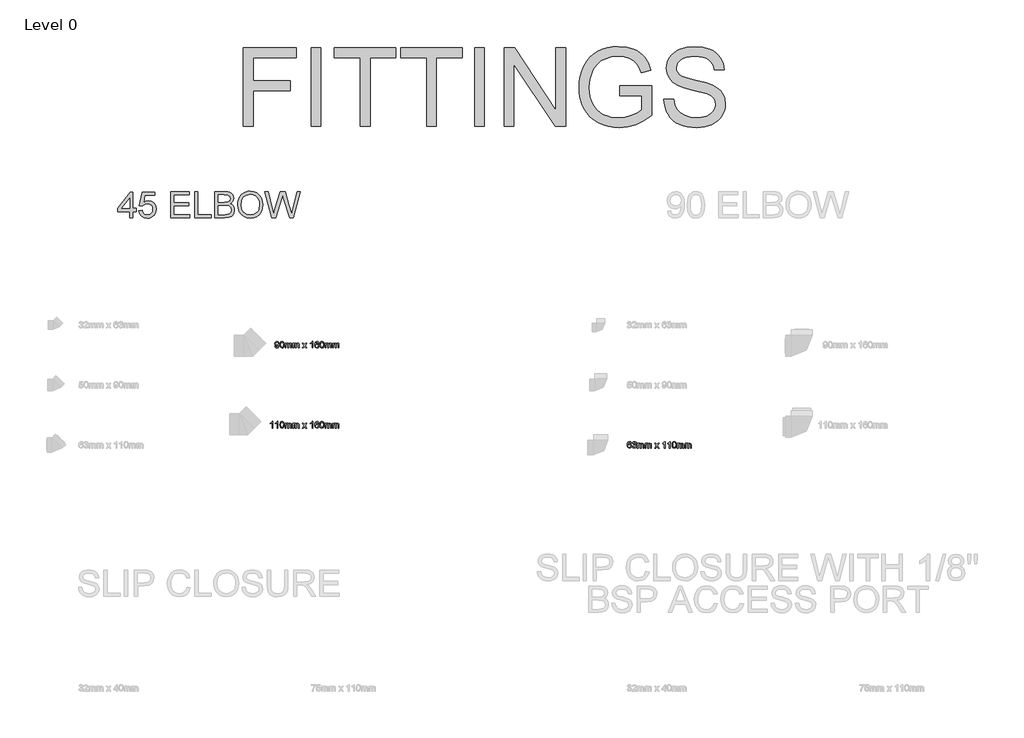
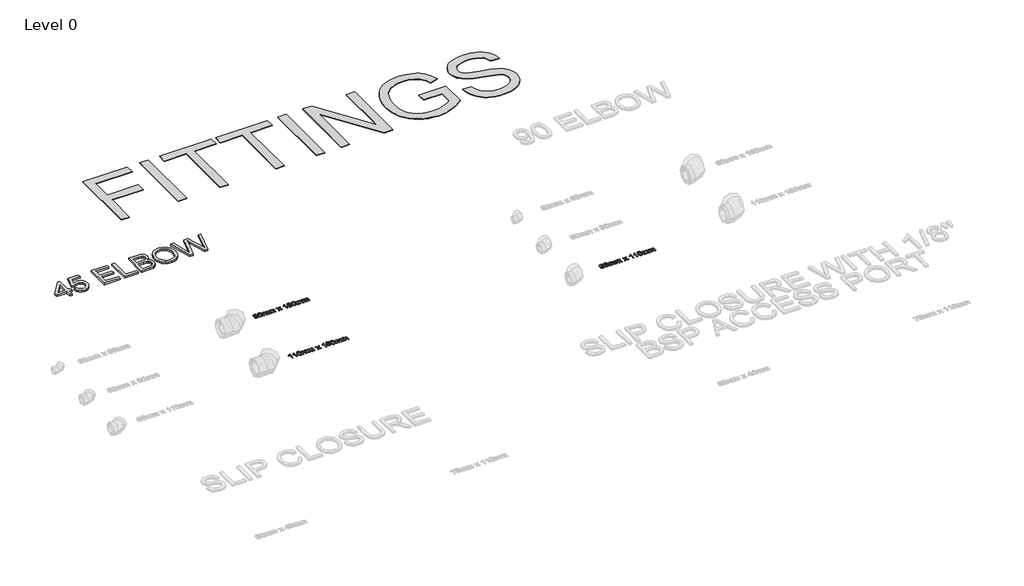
# One storey, part 16 of 21: 5 proxies.
"""IFC4 building model written with IfcOpenShell, lengths in millimetres."""

from ifc_helpers import new_model, si_unit, origin, origin_with_axes, place, context, project, spatial, polyline, outline, extrude, element, save

model = new_model("IFC4")

# Units and contexts
model_context = context("Model", 3, world=origin())
ifc_project = project(units=[si_unit("LENGTHUNIT", "METRE", prefix="MILLI")], contexts=[model_context])

# Site, building, storey
site = spatial("IfcSite", under=ifc_project)
building = spatial("IfcBuilding", under=site)
storey = spatial("IfcBuildingStorey", under=building, Name="Level 0", Elevation=0.0)

# Proxies
placement = place(None, origin())
element("IfcBuildingElementProxy", 1, Name="200mm Arial", ObjectType="200mm Arial", at=placement, inside=storey, context=model_context, shape_type="SweptSolid", body=[
    extrude(outline(polyline([(-7050.3842088, -1553.2112631), (-7050.3842088, -1506.1223677), (-7141.4227399, -1506.1223677), (-7141.4227399, -1481.0082902), (-7044.1056894, -1355.4379025), (-7025.2701313, -1355.4379025), (-7025.2701313, -1481.0082902), (-7000.1560537, -1481.0082902), (-7000.1560537, -1506.1223677), (-7025.2701313, -1506.1223677), (-7025.2701313, -1553.2112631), (-7050.3842088, -1553.2112631)]), holes=[polyline([(-7050.3842088, -1481.0082902), (-7050.3842088, -1403.4097147), (-7110.5206523, -1481.0082902), (-7050.3842088, -1481.0082902)])]), origin_with_axes(), (0.0, 0.0, 1.0), 15.0),
    extrude(outline(polyline([(-6978.1812359, -1499.8438483), (-6953.0671583, -1496.7045886), (-6948.4563707, -1511.7816191), (-6940.4120177, -1522.5789556), (-6928.9708877, -1529.0720728), (-6914.1697687, -1531.2364452), (-6896.1680764, -1528.2259443), (-6882.6790699, -1519.1944413), (-6874.2545722, -1505.1842686), (-6871.4464064, -1487.2377586), (-6874.0767626, -1470.3397123), (-6881.9678314, -1457.4147915), (-6895.1809264, -1449.2110231), (-6913.7773613, -1446.4764336), (-6935.8257555, -1450.8419666), (-6949.9278987, -1462.172732), (-6975.0419762, -1459.0334723), (-6953.0671583, -1355.4379025), (-6855.7501079, -1355.4379025), (-6855.7501079, -1380.55198), (-6932.7600722, -1380.55198), (-6943.5022265, -1435.8814321), (-6925.5618478, -1424.992125), (-6906.7630779, -1421.362356), (-6883.298338, -1425.8627791), (-6863.8189863, -1439.3640483), (-6850.7039932, -1459.9409146), (-6846.3323288, -1485.6681288), (-6850.2686662, -1510.7822063), (-6862.0776782, -1532.2665148), (-6872.5132641, -1542.8032683), (-6884.6901582, -1550.3295208), (-6898.6083603, -1554.8452723), (-6914.2678706, -1556.3505228), (-6938.9343584, -1552.4816305), (-6958.5853883, -1540.8749535), (-6972.0560007, -1522.8793926), (-6978.1812359, -1499.8438483)])), origin_with_axes(), (0.0, 0.0, 1.0), 15.0),
    extrude(outline(polyline([(-6736.4582396, -1553.2112631), (-6736.4582396, -1352.2986428), (-6592.0522937, -1352.2986428), (-6592.0522937, -1377.4127203), (-6711.3441621, -1377.4127203), (-6711.3441621, -1437.0586545), (-6598.3308131, -1437.0586545), (-6598.3308131, -1462.172732), (-6711.3441621, -1462.172732), (-6711.3441621, -1528.0971856), (-6588.9130341, -1528.0971856), (-6588.9130341, -1553.2112631), (-6736.4582396, -1553.2112631)])), origin_with_axes(), (0.0, 0.0, 1.0), 15.0),
    extrude(outline(polyline([(-6551.2419178, -1553.2112631), (-6551.2419178, -1352.2986428), (-6526.1278402, -1352.2986428), (-6526.1278402, -1528.0971856), (-6425.6715301, -1528.0971856), (-6425.6715301, -1553.2112631), (-6551.2419178, -1553.2112631)])), origin_with_axes(), (0.0, 0.0, 1.0), 15.0),
    extrude(outline(polyline([(-6397.4181928, -1553.2112631), (-6397.4181928, -1352.2986428), (-6320.751585, -1352.2986428), (-6299.6658153, -1353.7763021), (-6283.2030961, -1358.2092802), (-6270.5847436, -1365.7079415), (-6261.0320745, -1376.3826507), (-6255.0172039, -1388.9396895), (-6253.012247, -1402.0853395), (-6254.6983728, -1414.1825257), (-6259.7567502, -1425.5562108), (-6268.2241675, -1435.5074187), (-6280.1374128, -1443.3371739), (-6265.9065109, -1450.7683902), (-6255.3912172, -1462.0746302), (-6248.8981, -1476.5078671), (-6246.7337276, -1493.3200743), (-6252.644365, -1520.3226127), (-6267.2860684, -1539.5505783), (-6289.1382589, -1549.7531723), (-6321.3401962, -1553.2112631), (-6397.4181928, -1553.2112631)]), holes=[polyline([(-6372.3041153, -1528.0971856), (-6320.800636, -1528.0971856), (-6302.1612815, -1527.1161669), (-6286.3914067, -1521.6469879), (-6275.943558, -1510.4879007), (-6271.8478051, -1493.5653289), (-6276.6547966, -1474.0430577), (-6282.95171, -1466.9858548), (-6292.2284677, -1462.3934612), (-6323.2531826, -1459.0334723), (-6372.3041153, -1459.0334723), (-6372.3041153, -1528.0971856)]), polyline([(-6372.3041153, -1433.9193948), (-6326.4414932, -1433.9193948), (-6299.659684, -1431.7611537), (-6283.5464526, -1422.466002), (-6278.1263245, -1406.107516), (-6283.1785706, -1389.7245044), (-6297.6485957, -1380.0369452), (-6329.9241095, -1377.4127203), (-6372.3041153, -1377.4127203), (-6372.3041153, -1433.9193948)])]), origin_with_axes(), (0.0, 0.0, 1.0), 15.0),
    extrude(outline(polyline([(-6221.6196501, -1455.4037033), (-6219.945787, -1431.8377958), (-6214.9241978, -1410.975821), (-6206.5548824, -1392.8177789), (-6194.8378408, -1377.3636694), (-6180.4751146, -1365.0242941), (-6164.1687452, -1356.2104547), (-6145.9187325, -1350.922151), (-6125.7250767, -1349.1593831), (-6099.3724631, -1352.4703211), (-6075.7421763, -1362.4031349), (-6056.1218032, -1378.2588489), (-6041.7989308, -1399.3384872), (-6033.0433393, -1424.624243), (-6030.1248088, -1453.0983095), (-6033.1966235, -1481.9525206), (-6042.4120675, -1507.5938957), (-6057.2622374, -1528.7103222), (-6077.2382297, -1543.9896877), (-6100.6661814, -1553.260314), (-6125.8722295, -1556.3505228), (-6152.6295132, -1552.9353516), (-6176.3946901, -1542.689838), (-6195.9660123, -1526.5398184), (-6210.1417318, -1505.4111292), (-6218.7501705, -1481.1002607), (-6221.6196501, -1455.4037033)]), holes=[polyline([(-6196.5055725, -1455.648958), (-6191.4839833, -1487.0783431), (-6176.4192156, -1511.027461), (-6153.7760788, -1526.1841992), (-6126.0193823, -1531.2364452), (-6097.8580155, -1526.1351482), (-6075.1780905, -1510.8312572), (-6066.4546887, -1499.5587398), (-6060.2236874, -1486.1463754), (-6055.2388864, -1452.9021057), (-6057.372602, -1430.6697705), (-6063.7737487, -1411.4540676), (-6074.2767796, -1395.7393751), (-6088.7161479, -1384.0100708), (-6106.1353604, -1376.7076132), (-6125.5779239, -1374.2734606), (-6152.592725, -1378.9639561), (-6175.5608243, -1393.0354424), (-6184.7241516, -1403.9845303), (-6191.2693855, -1418.0698122), (-6196.5055725, -1455.648958)])]), origin_with_axes(), (0.0, 0.0, 1.0), 15.0),
    extrude(outline(polyline([(-5959.6386186, -1553.2112631), (-6014.4285104, -1352.2986428), (-5988.5296179, -1352.2986428), (-5956.7446135, -1484.3437536), (-5946.934427, -1525.1050787), (-5936.4375274, -1489.0526431), (-5896.6081701, -1352.2986428), (-5859.2804103, -1352.2986428), (-5830.34036, -1451.4305778), (-5808.8070006, -1525.1050787), (-5799.2911196, -1485.520976), (-5767.2118096, -1352.2986428), (-5741.3129172, -1352.2986428), (-5796.1518599, -1553.2112631), (-5822.9827201, -1553.2112631), (-5871.150736, -1398.2103158), (-5877.8707138, -1376.5788545), (-5885.4245574, -1402.6248997), (-5929.3251422, -1553.2112631), (-5959.6386186, -1553.2112631)])), origin_with_axes(), (0.0, 0.0, 1.0), 15.0),
])
element("IfcBuildingElementProxy", 2, Name="50mm", ObjectType="50mm", at=placement, inside=storey, context=model_context, shape_type="SweptSolid", body=[
    extrude(outline(polyline([(-5936.586045, -2537.3786578), (-5930.3075256, -2536.5938429), (-5927.487097, -2542.584188), (-5922.1405453, -2544.4419921), (-5917.0576424, -2543.2463756), (-5913.6118144, -2540.0519336), (-5911.5578066, -2534.5950174), (-5910.6503643, -2527.3109539), (-5915.7087417, -2530.842621), (-5922.5942664, -2532.6697683), (-5933.0850346, -2528.2061334), (-5937.3708599, -2516.4461723), (-5932.8765682, -2504.3060664), (-5921.6132478, -2499.7075415), (-5912.6675839, -2502.3317664), (-5906.5116919, -2509.8120336), (-5904.4086331, -2523.8651258), (-5906.5055605, -2539.1138345), (-5912.7411603, -2547.7529301), (-5922.4348509, -2550.7205115), (-5932.0856219, -2547.2195012), (-5936.586045, -2537.3786578)]), holes=[polyline([(-5910.6871525, -2516.2990195), (-5913.3972165, -2508.7697013), (-5920.5954409, -2505.9860609), (-5928.1492845, -2508.9842991), (-5931.0923405, -2516.7527406), (-5928.3087001, -2523.7118417), (-5920.7671192, -2526.3912489), (-5913.5259752, -2523.7118417), (-5910.6871525, -2516.2990195)])]), origin_with_axes(), (0.0, 0.0, 1.0), 5.0),
    extrude(outline(polyline([(-5898.9149287, -2525.2262892), (-5897.0693873, -2510.7746582), (-5891.5879456, -2502.442131), (-5882.4338153, -2499.7075415), (-5875.1007008, -2501.3262223), (-5870.036192, -2505.9921922), (-5867.0931361, -2513.4234085), (-5865.9527019, -2525.2262892), (-5867.7798491, -2539.6166066), (-5873.2428968, -2547.9675279), (-5882.4338153, -2550.7205115), (-5893.9117335, -2545.9380455), (-5897.6641299, -2537.4430371), (-5898.9149287, -2525.2262892)]), holes=[polyline([(-5892.6364093, -2525.2140265), (-5889.6933533, -2540.8060917), (-5882.4338153, -2544.4419921), (-5875.1742772, -2540.793829), (-5872.2312213, -2525.2140265), (-5875.0761754, -2509.7997709), (-5882.5073917, -2505.9860609), (-5889.5952514, -2509.3460498), (-5892.6364093, -2525.2140265)])]), origin_with_axes(), (0.0, 0.0, 1.0), 5.0),
    extrude(outline(polyline([(-5858.8893676, -2549.9356966), (-5858.8893676, -2513.0493952), (-5852.6108482, -2513.0493952), (-5852.6108482, -2519.1194481), (-5848.2943661, -2514.1469098), (-5842.1507368, -2512.2645803), (-5835.8599547, -2514.183698), (-5832.4018639, -2519.5609065), (-5827.502902, -2514.0886618), (-5821.3163531, -2512.2645803), (-5813.1064533, -2515.2996067), (-5810.2308424, -2524.6499408), (-5810.2308424, -2549.9356966), (-5816.5093617, -2549.9356966), (-5816.5093617, -2527.3477421), (-5817.0918416, -2522.1054236), (-5819.2010317, -2519.5241183), (-5822.7878811, -2518.5430996), (-5828.9621673, -2521.0569599), (-5831.4208453, -2529.1135756), (-5831.4208453, -2549.9356966), (-5837.6993647, -2549.9356966), (-5837.6993647, -2526.6487663), (-5839.1524985, -2520.5664506), (-5843.9165704, -2518.5430996), (-5848.5641463, -2519.8920003), (-5851.654355, -2523.8406004), (-5852.6108482, -2531.3331303), (-5852.6108482, -2549.9356966), (-5858.8893676, -2549.9356966)])), origin_with_axes(), (0.0, 0.0, 1.0), 5.0),
    extrude(outline(polyline([(-5800.8130633, -2549.9356966), (-5800.8130633, -2513.0493952), (-5794.5345439, -2513.0493952), (-5794.5345439, -2519.1194481), (-5790.2180618, -2514.1469098), (-5784.0744325, -2512.2645803), (-5777.7836504, -2514.183698), (-5774.3255596, -2519.5609065), (-5769.4265977, -2514.0886618), (-5763.2400488, -2512.2645803), (-5755.030149, -2515.2996067), (-5752.1545381, -2524.6499408), (-5752.1545381, -2549.9356966), (-5758.4330574, -2549.9356966), (-5758.4330574, -2527.3477421), (-5759.0155373, -2522.1054236), (-5761.1247274, -2519.5241183), (-5764.7115768, -2518.5430996), (-5770.885863, -2521.0569599), (-5773.344541, -2529.1135756), (-5773.344541, -2549.9356966), (-5779.6230604, -2549.9356966), (-5779.6230604, -2526.6487663), (-5781.0761942, -2520.5664506), (-5785.8402661, -2518.5430996), (-5790.4878419, -2519.8920003), (-5793.5780507, -2523.8406004), (-5794.5345439, -2531.3331303), (-5794.5345439, -2549.9356966), (-5800.8130633, -2549.9356966)])), origin_with_axes(), (0.0, 0.0, 1.0), 5.0),
    extrude(outline(polyline([(-5727.0404605, -2549.9356966), (-5713.6250304, -2531.394444), (-5726.2556456, -2513.0493952), (-5718.701802, -2513.0493952), (-5712.6072236, -2521.8785631), (-5709.7622695, -2526.0478923), (-5707.2974601, -2522.6388525), (-5700.3567531, -2513.0493952), (-5692.8029095, -2513.0493952), (-5706.0711868, -2531.394444), (-5693.2934188, -2549.9356966), (-5700.8472625, -2549.9356966), (-5708.5359962, -2538.7888721), (-5709.9462105, -2536.7532584), (-5719.4866169, -2549.9356966), (-5727.0404605, -2549.9356966)])), origin_with_axes(), (0.0, 0.0, 1.0), 5.0),
    extrude(outline(polyline([(-5646.2045234, -2549.9356966), (-5652.4830428, -2549.9356966), (-5652.4830428, -2510.7930523), (-5658.4304684, -2515.0298266), (-5665.0400816, -2518.1997431), (-5665.0400816, -2512.2645803), (-5655.8369003, -2506.3907311), (-5650.2512254, -2499.7075415), (-5646.2045234, -2499.7075415), (-5646.2045234, -2549.9356966)])), origin_with_axes(), (0.0, 0.0, 1.0), 5.0),
    extrude(outline(polyline([(-5599.1156281, -2513.0493952), (-5605.3941474, -2513.8342101), (-5607.7731177, -2508.598023), (-5614.0638998, -2505.9860609), (-5619.7292825, -2507.5066398), (-5624.0151078, -2513.2149421), (-5625.7993354, -2524.4046861), (-5620.2627114, -2519.3953596), (-5613.4017122, -2517.7582847), (-5602.7331343, -2522.2341823), (-5598.3308131, -2533.7979397), (-5600.403215, -2542.4615607), (-5606.105386, -2548.5929273), (-5614.3336799, -2550.7205115), (-5627.129842, -2545.0796542), (-5630.8408516, -2537.6116497), (-5632.0778548, -2526.4893507), (-5630.7044287, -2513.9844286), (-5626.5841504, -2505.4342379), (-5620.9586215, -2501.1392156), (-5613.6714923, -2499.7075415), (-5603.7509412, -2503.2514714), (-5599.1156281, -2513.0493952)]), holes=[polyline([(-5625.7993354, -2533.6998378), (-5624.3462016, -2539.13836), (-5620.4834406, -2543.0869601), (-5614.8241893, -2544.4419921), (-5607.4236298, -2541.6338262), (-5604.6093325, -2534.0064062), (-5607.3868416, -2526.7039486), (-5615.0817066, -2524.0368041), (-5622.6784698, -2526.7039486), (-5625.7993354, -2533.6998378)])]), origin_with_axes(), (0.0, 0.0, 1.0), 5.0),
    extrude(outline(polyline([(-5592.8371087, -2525.2262892), (-5590.9915673, -2510.7746582), (-5585.5101256, -2502.442131), (-5576.3559953, -2499.7075415), (-5569.0228809, -2501.3262223), (-5563.9583721, -2505.9921922), (-5561.0153161, -2513.4234085), (-5559.8748819, -2525.2262892), (-5561.7020291, -2539.6166066), (-5567.1650768, -2547.9675279), (-5576.3559953, -2550.7205115), (-5587.8339135, -2545.9380455), (-5591.5863099, -2537.4430371), (-5592.8371087, -2525.2262892)]), holes=[polyline([(-5586.5585893, -2525.2140265), (-5583.6155333, -2540.8060917), (-5576.3559953, -2544.4419921), (-5569.0964573, -2540.793829), (-5566.1534013, -2525.2140265), (-5568.9983554, -2509.7997709), (-5576.4295717, -2505.9860609), (-5583.5174315, -2509.3460498), (-5586.5585893, -2525.2140265)])]), origin_with_axes(), (0.0, 0.0, 1.0), 5.0),
    extrude(outline(polyline([(-5552.8115476, -2549.9356966), (-5552.8115476, -2513.0493952), (-5546.5330282, -2513.0493952), (-5546.5330282, -2519.1194481), (-5542.2165461, -2514.1469098), (-5536.0729168, -2512.2645803), (-5529.7821347, -2514.183698), (-5526.3240439, -2519.5609065), (-5521.425082, -2514.0886618), (-5515.2385332, -2512.2645803), (-5507.0286333, -2515.2996067), (-5504.1530224, -2524.6499408), (-5504.1530224, -2549.9356966), (-5510.4315418, -2549.9356966), (-5510.4315418, -2527.3477421), (-5511.0140216, -2522.1054236), (-5513.1232117, -2519.5241183), (-5516.7100611, -2518.5430996), (-5522.8843473, -2521.0569599), (-5525.3430253, -2529.1135756), (-5525.3430253, -2549.9356966), (-5531.6215447, -2549.9356966), (-5531.6215447, -2526.6487663), (-5533.0746786, -2520.5664506), (-5537.8387504, -2518.5430996), (-5542.4863263, -2519.8920003), (-5545.576535, -2523.8406004), (-5546.5330282, -2531.3331303), (-5546.5330282, -2549.9356966), (-5552.8115476, -2549.9356966)])), origin_with_axes(), (0.0, 0.0, 1.0), 5.0),
    extrude(outline(polyline([(-5494.7352433, -2549.9356966), (-5494.7352433, -2513.0493952), (-5488.4567239, -2513.0493952), (-5488.4567239, -2519.1194481), (-5484.1402418, -2514.1469098), (-5477.9966125, -2512.2645803), (-5471.7058304, -2514.183698), (-5468.2477396, -2519.5609065), (-5463.3487777, -2514.0886618), (-5457.1622289, -2512.2645803), (-5448.952329, -2515.2996067), (-5446.0767181, -2524.6499408), (-5446.0767181, -2549.9356966), (-5452.3552374, -2549.9356966), (-5452.3552374, -2527.3477421), (-5452.9377173, -2522.1054236), (-5455.0469074, -2519.5241183), (-5458.6337568, -2518.5430996), (-5464.808043, -2521.0569599), (-5467.266721, -2529.1135756), (-5467.266721, -2549.9356966), (-5473.5452404, -2549.9356966), (-5473.5452404, -2526.6487663), (-5474.9983743, -2520.5664506), (-5479.7624461, -2518.5430996), (-5484.410022, -2519.8920003), (-5487.5002307, -2523.8406004), (-5488.4567239, -2531.3331303), (-5488.4567239, -2549.9356966), (-5494.7352433, -2549.9356966)])), origin_with_axes(), (0.0, 0.0, 1.0), 5.0),
])
element("IfcBuildingElementProxy", 3, Name="50mm", ObjectType="50mm", at=placement, inside=storey, context=model_context, shape_type="SweptSolid", body=[
    extrude(outline(polyline([(-5952.2823434, -3163.2690299), (-5958.5608628, -3163.2690299), (-5958.5608628, -3124.1263856), (-5964.5082884, -3128.3631599), (-5971.1179016, -3131.5330764), (-5971.1179016, -3125.5979136), (-5961.9147203, -3119.7240644), (-5956.3290454, -3113.0408748), (-5952.2823434, -3113.0408748), (-5952.2823434, -3163.2690299)])), origin_with_axes(), (0.0, 0.0, 1.0), 5.0),
    extrude(outline(polyline([(-5913.8264122, -3163.2690299), (-5920.1049316, -3163.2690299), (-5920.1049316, -3124.1263856), (-5926.0523572, -3128.3631599), (-5932.6619704, -3131.5330764), (-5932.6619704, -3125.5979136), (-5923.4587891, -3119.7240644), (-5917.8731141, -3113.0408748), (-5913.8264122, -3113.0408748), (-5913.8264122, -3163.2690299)])), origin_with_axes(), (0.0, 0.0, 1.0), 5.0),
    extrude(outline(polyline([(-5898.9149287, -3138.5596226), (-5897.0693873, -3124.1079915), (-5891.5879456, -3115.7754643), (-5882.4338153, -3113.0408748), (-5875.1007008, -3114.6595556), (-5870.036192, -3119.3255256), (-5867.0931361, -3126.7567419), (-5865.9527019, -3138.5596226), (-5867.7798491, -3152.9499399), (-5873.2428968, -3161.3008612), (-5882.4338153, -3164.0538448), (-5893.9117335, -3159.2713789), (-5897.6641299, -3150.7763705), (-5898.9149287, -3138.5596226)]), holes=[polyline([(-5892.6364093, -3138.5473598), (-5889.6933533, -3154.139425), (-5882.4338153, -3157.7753254), (-5875.1742772, -3154.1271623), (-5872.2312213, -3138.5473598), (-5875.0761754, -3123.1331042), (-5882.5073917, -3119.3193942), (-5889.5952514, -3122.6793831), (-5892.6364093, -3138.5473598)])]), origin_with_axes(), (0.0, 0.0, 1.0), 5.0),
    extrude(outline(polyline([(-5858.8893676, -3163.2690299), (-5858.8893676, -3126.3827285), (-5852.6108482, -3126.3827285), (-5852.6108482, -3132.4527814), (-5848.2943661, -3127.4802431), (-5842.1507368, -3125.5979136), (-5835.8599547, -3127.5170313), (-5832.4018639, -3132.8942398), (-5827.502902, -3127.4219952), (-5821.3163531, -3125.5979136), (-5813.1064533, -3128.6329401), (-5810.2308424, -3137.9832741), (-5810.2308424, -3163.2690299), (-5816.5093617, -3163.2690299), (-5816.5093617, -3140.6810754), (-5817.0918416, -3135.438757), (-5819.2010317, -3132.8574516), (-5822.7878811, -3131.876433), (-5828.9621673, -3134.3902933), (-5831.4208453, -3142.446909), (-5831.4208453, -3163.2690299), (-5837.6993647, -3163.2690299), (-5837.6993647, -3139.9820996), (-5839.1524985, -3133.8997839), (-5843.9165704, -3131.876433), (-5848.5641463, -3133.2253336), (-5851.654355, -3137.1739337), (-5852.6108482, -3144.6664637), (-5852.6108482, -3163.2690299), (-5858.8893676, -3163.2690299)])), origin_with_axes(), (0.0, 0.0, 1.0), 5.0),
    extrude(outline(polyline([(-5800.8130633, -3163.2690299), (-5800.8130633, -3126.3827285), (-5794.5345439, -3126.3827285), (-5794.5345439, -3132.4527814), (-5790.2180618, -3127.4802431), (-5784.0744325, -3125.5979136), (-5777.7836504, -3127.5170313), (-5774.3255596, -3132.8942398), (-5769.4265977, -3127.4219952), (-5763.2400488, -3125.5979136), (-5755.030149, -3128.6329401), (-5752.1545381, -3137.9832741), (-5752.1545381, -3163.2690299), (-5758.4330574, -3163.2690299), (-5758.4330574, -3140.6810754), (-5759.0155373, -3135.438757), (-5761.1247274, -3132.8574516), (-5764.7115768, -3131.876433), (-5770.885863, -3134.3902933), (-5773.344541, -3142.446909), (-5773.344541, -3163.2690299), (-5779.6230604, -3163.2690299), (-5779.6230604, -3139.9820996), (-5781.0761942, -3133.8997839), (-5785.8402661, -3131.876433), (-5790.4878419, -3133.2253336), (-5793.5780507, -3137.1739337), (-5794.5345439, -3144.6664637), (-5794.5345439, -3163.2690299), (-5800.8130633, -3163.2690299)])), origin_with_axes(), (0.0, 0.0, 1.0), 5.0),
    extrude(outline(polyline([(-5727.0404605, -3163.2690299), (-5713.6250304, -3144.7277773), (-5726.2556456, -3126.3827285), (-5718.701802, -3126.3827285), (-5712.6072236, -3135.2118964), (-5709.7622695, -3139.3812257), (-5707.2974601, -3135.9721859), (-5700.3567531, -3126.3827285), (-5692.8029095, -3126.3827285), (-5706.0711868, -3144.7277773), (-5693.2934188, -3163.2690299), (-5700.8472625, -3163.2690299), (-5708.5359962, -3152.1222054), (-5709.9462105, -3150.0865917), (-5719.4866169, -3163.2690299), (-5727.0404605, -3163.2690299)])), origin_with_axes(), (0.0, 0.0, 1.0), 5.0),
    extrude(outline(polyline([(-5646.2045234, -3163.2690299), (-5652.4830428, -3163.2690299), (-5652.4830428, -3124.1263856), (-5658.4304684, -3128.3631599), (-5665.0400816, -3131.5330764), (-5665.0400816, -3125.5979136), (-5655.8369003, -3119.7240644), (-5650.2512254, -3113.0408748), (-5646.2045234, -3113.0408748), (-5646.2045234, -3163.2690299)])), origin_with_axes(), (0.0, 0.0, 1.0), 5.0),
    extrude(outline(polyline([(-5599.1156281, -3126.3827285), (-5605.3941474, -3127.1675434), (-5607.7731177, -3121.9313564), (-5614.0638998, -3119.3193942), (-5619.7292825, -3120.8399731), (-5624.0151078, -3126.5482754), (-5625.7993354, -3137.7380194), (-5620.2627114, -3132.7286929), (-5613.4017122, -3131.0916181), (-5602.7331343, -3135.5675157), (-5598.3308131, -3147.131273), (-5600.403215, -3155.794894), (-5606.105386, -3161.9262606), (-5614.3336799, -3164.0538448), (-5627.129842, -3158.4129876), (-5630.8408516, -3150.9449831), (-5632.0778548, -3139.8226841), (-5630.7044287, -3127.3177619), (-5626.5841504, -3118.7675712), (-5620.9586215, -3114.4725489), (-5613.6714923, -3113.0408748), (-5603.7509412, -3116.5848047), (-5599.1156281, -3126.3827285)]), holes=[polyline([(-5625.7993354, -3147.0331712), (-5624.3462016, -3152.4716933), (-5620.4834406, -3156.4202934), (-5614.8241893, -3157.7753254), (-5607.4236298, -3154.9671595), (-5604.6093325, -3147.3397395), (-5607.3868416, -3140.0372819), (-5615.0817066, -3137.3701374), (-5622.6784698, -3140.0372819), (-5625.7993354, -3147.0331712)])]), origin_with_axes(), (0.0, 0.0, 1.0), 5.0),
    extrude(outline(polyline([(-5592.8371087, -3138.5596226), (-5590.9915673, -3124.1079915), (-5585.5101256, -3115.7754643), (-5576.3559953, -3113.0408748), (-5569.0228809, -3114.6595556), (-5563.9583721, -3119.3255256), (-5561.0153161, -3126.7567419), (-5559.8748819, -3138.5596226), (-5561.7020291, -3152.9499399), (-5567.1650768, -3161.3008612), (-5576.3559953, -3164.0538448), (-5587.8339135, -3159.2713789), (-5591.5863099, -3150.7763705), (-5592.8371087, -3138.5596226)]), holes=[polyline([(-5586.5585893, -3138.5473598), (-5583.6155333, -3154.139425), (-5576.3559953, -3157.7753254), (-5569.0964573, -3154.1271623), (-5566.1534013, -3138.5473598), (-5568.9983554, -3123.1331042), (-5576.4295717, -3119.3193942), (-5583.5174315, -3122.6793831), (-5586.5585893, -3138.5473598)])]), origin_with_axes(), (0.0, 0.0, 1.0), 5.0),
    extrude(outline(polyline([(-5552.8115476, -3163.2690299), (-5552.8115476, -3126.3827285), (-5546.5330282, -3126.3827285), (-5546.5330282, -3132.4527814), (-5542.2165461, -3127.4802431), (-5536.0729168, -3125.5979136), (-5529.7821347, -3127.5170313), (-5526.3240439, -3132.8942398), (-5521.425082, -3127.4219952), (-5515.2385332, -3125.5979136), (-5507.0286333, -3128.6329401), (-5504.1530224, -3137.9832741), (-5504.1530224, -3163.2690299), (-5510.4315418, -3163.2690299), (-5510.4315418, -3140.6810754), (-5511.0140216, -3135.438757), (-5513.1232117, -3132.8574516), (-5516.7100611, -3131.876433), (-5522.8843473, -3134.3902933), (-5525.3430253, -3142.446909), (-5525.3430253, -3163.2690299), (-5531.6215447, -3163.2690299), (-5531.6215447, -3139.9820996), (-5533.0746786, -3133.8997839), (-5537.8387504, -3131.876433), (-5542.4863263, -3133.2253336), (-5545.576535, -3137.1739337), (-5546.5330282, -3144.6664637), (-5546.5330282, -3163.2690299), (-5552.8115476, -3163.2690299)])), origin_with_axes(), (0.0, 0.0, 1.0), 5.0),
    extrude(outline(polyline([(-5494.7352433, -3163.2690299), (-5494.7352433, -3126.3827285), (-5488.4567239, -3126.3827285), (-5488.4567239, -3132.4527814), (-5484.1402418, -3127.4802431), (-5477.9966125, -3125.5979136), (-5471.7058304, -3127.5170313), (-5468.2477396, -3132.8942398), (-5463.3487777, -3127.4219952), (-5457.1622289, -3125.5979136), (-5448.952329, -3128.6329401), (-5446.0767181, -3137.9832741), (-5446.0767181, -3163.2690299), (-5452.3552374, -3163.2690299), (-5452.3552374, -3140.6810754), (-5452.9377173, -3135.438757), (-5455.0469074, -3132.8574516), (-5458.6337568, -3131.876433), (-5464.808043, -3134.3902933), (-5467.266721, -3142.446909), (-5467.266721, -3163.2690299), (-5473.5452404, -3163.2690299), (-5473.5452404, -3139.9820996), (-5474.9983743, -3133.8997839), (-5479.7624461, -3131.876433), (-5484.410022, -3133.2253336), (-5487.5002307, -3137.1739337), (-5488.4567239, -3144.6664637), (-5488.4567239, -3163.2690299), (-5494.7352433, -3163.2690299)])), origin_with_axes(), (0.0, 0.0, 1.0), 5.0),
])
element("IfcBuildingElementProxy", 4, Name="50mm", ObjectType="50mm", at=placement, inside=storey, context=model_context, shape_type="SweptSolid", body=[
    extrude(outline(polyline([(-3206.051157, -3279.7160618), (-3212.3296764, -3280.5008768), (-3214.7086466, -3275.2646897), (-3220.9994287, -3272.6527275), (-3226.6648115, -3274.1733065), (-3230.9506367, -3279.8816087), (-3232.7348644, -3291.0713528), (-3227.1982403, -3286.0620263), (-3220.3372411, -3284.4249514), (-3209.6686633, -3288.900849), (-3205.2663421, -3300.4646064), (-3207.338744, -3309.1282274), (-3213.0409149, -3315.2595939), (-3221.2692089, -3317.3871782), (-3234.0653709, -3311.7463209), (-3237.7763805, -3304.2783164), (-3239.0133838, -3293.1560174), (-3237.6399576, -3280.6510953), (-3233.5196793, -3272.1009045), (-3227.8941505, -3267.8058823), (-3220.6070213, -3266.3742082), (-3210.6864701, -3269.918138), (-3206.051157, -3279.7160618)]), holes=[polyline([(-3232.7348644, -3300.3665045), (-3231.2817305, -3305.8050267), (-3227.4189695, -3309.7536268), (-3221.7597182, -3311.1086588), (-3214.3591587, -3308.3004929), (-3211.5448614, -3300.6730728), (-3214.3223705, -3293.3706152), (-3222.0172356, -3290.7034708), (-3229.6139988, -3293.3706152), (-3232.7348644, -3300.3665045)])]), origin_with_axes(), (0.0, 0.0, 1.0), 5.0),
    extrude(outline(polyline([(-3199.7726376, -3303.2605095), (-3193.4941182, -3302.4756946), (-3190.0298961, -3309.0853078), (-3183.5490416, -3311.1086588), (-3175.9216216, -3308.3250183), (-3173.0889302, -3301.4333623), (-3175.8970961, -3294.9402451), (-3183.0340068, -3292.3712025), (-3187.436328, -3293.0579155), (-3186.7373522, -3286.7793962), (-3178.6071601, -3285.0503508), (-3175.443375, -3279.5075954), (-3177.7365061, -3274.5963707), (-3183.6471435, -3272.6527275), (-3189.6313573, -3274.6147648), (-3192.7093033, -3280.5008768), (-3198.9878227, -3279.7160618), (-3193.8497375, -3269.8690871), (-3183.8678727, -3266.3742082), (-3176.2956349, -3268.0971222), (-3170.9981342, -3272.8060117), (-3169.1648556, -3279.1397134), (-3170.9061637, -3284.9277234), (-3176.0565116, -3289.08479), (-3169.2139065, -3293.3767466), (-3166.8104108, -3301.5437269), (-3171.6174022, -3312.7763905), (-3183.7697708, -3317.3871782), (-3194.7817052, -3313.4508408), (-3199.7726376, -3303.2605095)])), origin_with_axes(), (0.0, 0.0, 1.0), 5.0),
    extrude(outline(polyline([(-3159.7470765, -3316.6023632), (-3159.7470765, -3279.7160618), (-3153.4685571, -3279.7160618), (-3153.4685571, -3285.7861148), (-3149.1520751, -3280.8135765), (-3143.0084457, -3278.9312469), (-3136.7176636, -3280.8503647), (-3133.2595729, -3286.2275732), (-3128.360611, -3280.7553285), (-3122.1740621, -3278.9312469), (-3113.9641622, -3281.9662734), (-3111.0885513, -3291.3166074), (-3111.0885513, -3316.6023632), (-3117.3670707, -3316.6023632), (-3117.3670707, -3294.0144087), (-3117.9495505, -3288.7720903), (-3120.0587406, -3286.190785), (-3123.6455901, -3285.2097663), (-3129.8198762, -3287.7236266), (-3132.2785542, -3295.7802423), (-3132.2785542, -3316.6023632), (-3138.5570736, -3316.6023632), (-3138.5570736, -3293.3154329), (-3140.0102075, -3287.2331173), (-3144.7742793, -3285.2097663), (-3149.4218552, -3286.558667), (-3152.512064, -3290.507267), (-3153.4685571, -3297.999797), (-3153.4685571, -3316.6023632), (-3159.7470765, -3316.6023632)])), origin_with_axes(), (0.0, 0.0, 1.0), 5.0),
    extrude(outline(polyline([(-3101.6707722, -3316.6023632), (-3101.6707722, -3279.7160618), (-3095.3922528, -3279.7160618), (-3095.3922528, -3285.7861148), (-3091.0757708, -3280.8135765), (-3084.9321414, -3278.9312469), (-3078.6413593, -3280.8503647), (-3075.1832686, -3286.2275732), (-3070.2843067, -3280.7553285), (-3064.0977578, -3278.9312469), (-3055.8878579, -3281.9662734), (-3053.012247, -3291.3166074), (-3053.012247, -3316.6023632), (-3059.2907664, -3316.6023632), (-3059.2907664, -3294.0144087), (-3059.8732462, -3288.7720903), (-3061.9824363, -3286.190785), (-3065.5692858, -3285.2097663), (-3071.7435719, -3287.7236266), (-3074.2022499, -3295.7802423), (-3074.2022499, -3316.6023632), (-3080.4807693, -3316.6023632), (-3080.4807693, -3293.3154329), (-3081.9339032, -3287.2331173), (-3086.697975, -3285.2097663), (-3091.3455509, -3286.558667), (-3094.4357597, -3290.507267), (-3095.3922528, -3297.999797), (-3095.3922528, -3316.6023632), (-3101.6707722, -3316.6023632)])), origin_with_axes(), (0.0, 0.0, 1.0), 5.0),
    extrude(outline(polyline([(-3027.8981695, -3316.6023632), (-3014.4827394, -3298.0611107), (-3027.1133545, -3279.7160618), (-3019.5595109, -3279.7160618), (-3013.4649325, -3288.5452297), (-3010.6199784, -3292.714559), (-3008.155169, -3289.3055192), (-3001.2144621, -3279.7160618), (-2993.6606184, -3279.7160618), (-3006.9288957, -3298.0611107), (-2994.1511278, -3316.6023632), (-3001.7049714, -3316.6023632), (-3009.3937051, -3305.4555388), (-3010.8039194, -3303.4199251), (-3020.3443258, -3316.6023632), (-3027.8981695, -3316.6023632)])), origin_with_axes(), (0.0, 0.0, 1.0), 5.0),
    extrude(outline(polyline([(-2947.0622324, -3316.6023632), (-2953.3407518, -3316.6023632), (-2953.3407518, -3277.4597189), (-2959.2881774, -3281.6964933), (-2965.8977905, -3284.8664098), (-2965.8977905, -3278.9312469), (-2956.6946093, -3273.0573977), (-2951.1089343, -3266.3742082), (-2947.0622324, -3266.3742082), (-2947.0622324, -3316.6023632)])), origin_with_axes(), (0.0, 0.0, 1.0), 5.0),
    extrude(outline(polyline([(-2908.6063012, -3316.6023632), (-2914.8848205, -3316.6023632), (-2914.8848205, -3277.4597189), (-2920.8322461, -3281.6964933), (-2927.4418593, -3284.8664098), (-2927.4418593, -3278.9312469), (-2918.2386781, -3273.0573977), (-2912.6530031, -3266.3742082), (-2908.6063012, -3266.3742082), (-2908.6063012, -3316.6023632)])), origin_with_axes(), (0.0, 0.0, 1.0), 5.0),
    extrude(outline(polyline([(-2893.6948176, -3291.8929559), (-2891.8492763, -3277.4413248), (-2886.3678345, -3269.1087977), (-2877.2137042, -3266.3742082), (-2869.8805898, -3267.9928889), (-2864.816081, -3272.6588589), (-2861.873025, -3280.0900752), (-2860.7325908, -3291.8929559), (-2862.5597381, -3306.2832733), (-2868.0227857, -3314.6341946), (-2877.2137042, -3317.3871782), (-2888.6916225, -3312.6047122), (-2892.4440188, -3304.1097038), (-2893.6948176, -3291.8929559)]), holes=[polyline([(-2887.4162982, -3291.8806932), (-2884.4732423, -3307.4727584), (-2877.2137042, -3311.1086588), (-2869.9541662, -3307.4604957), (-2867.0111102, -3291.8806932), (-2869.8560643, -3276.4664376), (-2877.2872806, -3272.6527275), (-2884.3751404, -3276.0127164), (-2887.4162982, -3291.8806932)])]), origin_with_axes(), (0.0, 0.0, 1.0), 5.0),
    extrude(outline(polyline([(-2853.6692565, -3316.6023632), (-2853.6692565, -3279.7160618), (-2847.3907372, -3279.7160618), (-2847.3907372, -3285.7861148), (-2843.0742551, -3280.8135765), (-2836.9306258, -3278.9312469), (-2830.6398436, -3280.8503647), (-2827.1817529, -3286.2275732), (-2822.282791, -3280.7553285), (-2816.0962421, -3278.9312469), (-2807.8863422, -3281.9662734), (-2805.0107313, -3291.3166074), (-2805.0107313, -3316.6023632), (-2811.2892507, -3316.6023632), (-2811.2892507, -3294.0144087), (-2811.8717305, -3288.7720903), (-2813.9809206, -3286.190785), (-2817.5677701, -3285.2097663), (-2823.7420562, -3287.7236266), (-2826.2007342, -3295.7802423), (-2826.2007342, -3316.6023632), (-2832.4792536, -3316.6023632), (-2832.4792536, -3293.3154329), (-2833.9323875, -3287.2331173), (-2838.6964593, -3285.2097663), (-2843.3440352, -3286.558667), (-2846.434244, -3290.507267), (-2847.3907372, -3297.999797), (-2847.3907372, -3316.6023632), (-2853.6692565, -3316.6023632)])), origin_with_axes(), (0.0, 0.0, 1.0), 5.0),
    extrude(outline(polyline([(-2795.5929522, -3316.6023632), (-2795.5929522, -3279.7160618), (-2789.3144329, -3279.7160618), (-2789.3144329, -3285.7861148), (-2784.9979508, -3280.8135765), (-2778.8543215, -3278.9312469), (-2772.5635393, -3280.8503647), (-2769.1054486, -3286.2275732), (-2764.2064867, -3280.7553285), (-2758.0199378, -3278.9312469), (-2749.8100379, -3281.9662734), (-2746.934427, -3291.3166074), (-2746.934427, -3316.6023632), (-2753.2129464, -3316.6023632), (-2753.2129464, -3294.0144087), (-2753.7954262, -3288.7720903), (-2755.9046163, -3286.190785), (-2759.4914658, -3285.2097663), (-2765.6657519, -3287.7236266), (-2768.1244299, -3295.7802423), (-2768.1244299, -3316.6023632), (-2774.4029493, -3316.6023632), (-2774.4029493, -3293.3154329), (-2775.8560832, -3287.2331173), (-2780.620155, -3285.2097663), (-2785.2677309, -3286.558667), (-2788.3579397, -3290.507267), (-2789.3144329, -3297.999797), (-2789.3144329, -3316.6023632), (-2795.5929522, -3316.6023632)])), origin_with_axes(), (0.0, 0.0, 1.0), 5.0),
])
element("IfcBuildingElementProxy", 5, Name="600mm Arial", ObjectType="600mm Arial", at=placement, inside=storey, context=model_context, shape_type="SweptSolid", body=[
    extrude(outline(polyline([(-6177.8347484, -853.2112631), (-6177.8347484, -250.4734022), (-5772.8702482, -250.4734022), (-5772.8702482, -325.8156348), (-6102.4925158, -325.8156348), (-6102.4925158, -504.7534373), (-5819.9591435, -504.7534373), (-5819.9591435, -580.0956699), (-6102.4925158, -580.0956699), (-6102.4925158, -853.2112631), (-6177.8347484, -853.2112631)])), origin_with_axes(), (0.0, 0.0, 1.0), 5.0),
    extrude(outline(polyline([(-5659.8568992, -853.2112631), (-5659.8568992, -250.4734022), (-5584.5146666, -250.4734022), (-5584.5146666, -853.2112631), (-5659.8568992, -853.2112631)])), origin_with_axes(), (0.0, 0.0, 1.0), 5.0),
    extrude(outline(polyline([(-5283.1457362, -853.2112631), (-5283.1457362, -325.8156348), (-5480.9190968, -325.8156348), (-5480.9190968, -250.4734022), (-5010.030143, -250.4734022), (-5010.030143, -325.8156348), (-5207.8035036, -325.8156348), (-5207.8035036, -853.2112631), (-5283.1457362, -853.2112631)])), origin_with_axes(), (0.0, 0.0, 1.0), 5.0),
    extrude(outline(polyline([(-4774.585666, -853.2112631), (-4774.585666, -325.8156348), (-4972.3590267, -325.8156348), (-4972.3590267, -250.4734022), (-4501.4700728, -250.4734022), (-4501.4700728, -325.8156348), (-4699.2434334, -325.8156348), (-4699.2434334, -853.2112631), (-4774.585666, -853.2112631)])), origin_with_axes(), (0.0, 0.0, 1.0), 5.0),
    extrude(outline(polyline([(-4407.2922821, -853.2112631), (-4407.2922821, -250.4734022), (-4331.9500494, -250.4734022), (-4331.9500494, -853.2112631), (-4407.2922821, -853.2112631)])), origin_with_axes(), (0.0, 0.0, 1.0), 5.0),
    extrude(outline(polyline([(-4181.2655842, -853.2112631), (-4181.2655842, -250.4734022), (-4100.6258509, -250.4734022), (-3785.718863, -727.9842319), (-3785.718863, -250.4734022), (-3710.3766304, -250.4734022), (-3710.3766304, -853.2112631), (-3791.0163637, -853.2112631), (-4105.9233516, -375.5532806), (-4105.9233516, -853.2112631), (-4181.2655842, -853.2112631)])), origin_with_axes(), (0.0, 0.0, 1.0), 5.0),
    extrude(outline(polyline([(-3295.994351, -617.7667862), (-3295.994351, -542.4245536), (-3051.132095, -542.4245536), (-3051.132095, -767.7154874), (-3110.6370078, -809.1022119), (-3172.0181187, -838.7902889), (-3235.1282749, -856.6693538), (-3299.8203238, -862.6290422), (-3343.097042, -860.2608018), (-3384.3412122, -853.1560808), (-3423.5528343, -841.3148791), (-3460.7319085, -824.7371967), (-3494.6782196, -803.6713539), (-3524.1915526, -778.3656712), (-3549.2719077, -748.8201484), (-3569.9192846, -715.0347857), (-3586.0463116, -678.0902363), (-3597.5656166, -639.0671537), (-3604.4771996, -597.9655378), (-3606.7810606, -554.7853886), (-3604.4863966, -511.6006409), (-3597.6024048, -469.8966182), (-3586.1290851, -429.6733206), (-3570.0664374, -390.930748), (-3549.6995705, -355.3703546), (-3525.3135927, -324.6935947), (-3496.9085042, -298.9004683), (-3464.4843048, -277.9909754), (-3428.744569, -261.8317588), (-3390.392871, -250.2894612), (-3349.4292108, -243.3640826), (-3305.8535885, -241.0556231), (-3243.7918959, -246.4083061), (-3187.9841972, -262.4663552), (-3163.0647906, -274.220185), (-3140.9872724, -288.0709421), (-3121.7516425, -304.0186266), (-3105.3579011, -322.0632385), (-3078.9991562, -366.0803192), (-3059.8141101, -421.7592591), (-3129.2702308, -441.3305813), (-3144.7764569, -401.6177199), (-3163.6304092, -371.6537314), (-3188.5728084, -349.0657769), (-3222.3443756, -331.4810175), (-3262.60906, -320.1686462), (-3307.0308109, -316.3978557), (-3359.0309309, -320.4629518), (-3403.48947, -332.6582399), (-3440.2408813, -351.4570099), (-3469.119618, -375.3325514), (-3491.2845082, -403.0524597), (-3507.8943803, -433.3843302), (-3525.552716, -490.2588866), (-3531.4388279, -551.6951798), (-3529.6683958, -589.3157124), (-3524.3570995, -623.7448686), (-3515.504939, -654.9826485), (-3503.1119143, -683.0290521), (-3487.3389738, -707.7783133), (-3468.3470658, -729.1246661), (-3446.1361903, -747.0681104), (-3420.7063474, -761.6086463), (-3393.248555, -772.8428427), (-3364.953831, -780.8672687), (-3335.8221755, -785.6819244), (-3305.8535885, -787.2868096), (-3253.6695275, -782.4491613), (-3202.7730535, -767.9362166), (-3158.5720317, -747.9418302), (-3126.4743277, -726.6598567), (-3126.4743277, -617.7667862), (-3295.994351, -617.7667862)])), origin_with_axes(), (0.0, 0.0, 1.0), 5.0),
    extrude(outline(polyline([(-2956.9543043, -646.0201234), (-2881.6120717, -646.0201234), (-2872.9668448, -687.8299122), (-2857.33186, -721.4359324), (-2832.9412837, -748.1073771), (-2798.0292824, -769.113439), (-2755.3549709, -782.7434669), (-2707.6774643, -787.2868096), (-2665.7021287, -783.8471129), (-2628.9507174, -773.5280229), (-2599.1706699, -757.1940623), (-2578.1094256, -735.7097538), (-2565.5830437, -711.0432661), (-2561.4075831, -685.1627677), (-2564.53458, -659.9444569), (-2573.9155709, -638.1474487), (-2592.9718582, -619.5510139), (-2625.1247446, -603.9344232), (-2734.8271556, -575.1660511), (-2806.8400561, -556.1281579), (-2852.917276, -538.0099696), (-2890.4228454, -512.6629002), (-2917.0023196, -481.9447536), (-2932.8396395, -446.5177174), (-2938.1187461, -407.0439793), (-2936.4862698, -384.6077762), (-2931.5888407, -362.916534), (-2923.4264589, -341.9702529), (-2911.9991245, -321.7689329), (-2897.435596, -303.1357098), (-2879.8646322, -286.8937197), (-2859.2862331, -273.0429626), (-2835.7003987, -261.5834384), (-2782.6886032, -246.1875769), (-2724.0114249, -241.0556231), (-2660.4414162, -246.4267002), (-2604.8176585, -262.5399316), (-2580.4822645, -274.5420817), (-2559.1267147, -289.0642235), (-2540.751009, -306.1063569), (-2525.3551475, -325.668482), (-2513.0586918, -347.1803817), (-2503.9812036, -370.0718388), (-2498.1226828, -394.3428535), (-2495.4831295, -419.9934256), (-2570.8253621, -419.9934256), (-2575.8653455, -395.9523372), (-2584.6577252, -375.0382458), (-2597.2025012, -357.2511513), (-2613.4996736, -342.5910538), (-2633.852745, -331.1315296), (-2658.565218, -322.9461552), (-2687.6370927, -318.0349306), (-2721.068369, -316.3978557), (-2755.5665031, -318.0165365), (-2785.0430479, -322.8725788), (-2809.4980036, -330.9659827), (-2828.93137, -342.2967482), (-2843.7386203, -355.9175791), (-2854.3152276, -370.8811792), (-2860.661192, -387.1875487), (-2862.7765135, -404.8366874), (-2861.2773944, -420.0210167), (-2856.780037, -433.7890004), (-2849.2844413, -446.1406384), (-2838.7906074, -457.0759307), (-2822.2727058, -467.4318088), (-2796.2634488, -477.8980516), (-2715.7708682, -499.1616309), (-2632.7031137, -519.3583525), (-2582.4504332, -536.9799), (-2539.5002102, -564.3135323), (-2522.8949367, -580.3807784), (-2509.5362217, -598.0483112), (-2499.2677156, -617.2241602), (-2491.9330683, -637.8163549), (-2486.0653504, -683.2497813), (-2487.7530091, -706.8172216), (-2492.8159851, -729.6948832), (-2501.2542783, -751.882766), (-2513.0678889, -773.3808701), (-2528.0498831, -793.3568625), (-2545.9933275, -810.97841), (-2566.8982218, -826.2455128), (-2590.7645663, -839.1581709), (-2616.8979835, -849.4266771), (-2644.6040963, -856.7613243), (-2704.7344084, -862.6290422), (-2743.2746459, -861.0471496), (-2778.5499307, -856.3014718), (-2810.5602628, -848.392009), (-2839.3056422, -837.3187609), (-2864.9608129, -823.0633336), (-2887.7005187, -805.6073329), (-2907.5247597, -784.9507589), (-2924.4335359, -761.0936115), (-2938.0543668, -734.8084429), (-2948.0147718, -706.8678054), (-2954.314751, -677.2716989), (-2956.9543043, -646.0201234)])), origin_with_axes(), (0.0, 0.0, 1.0), 5.0),
])

save(model, "model.ifc")
